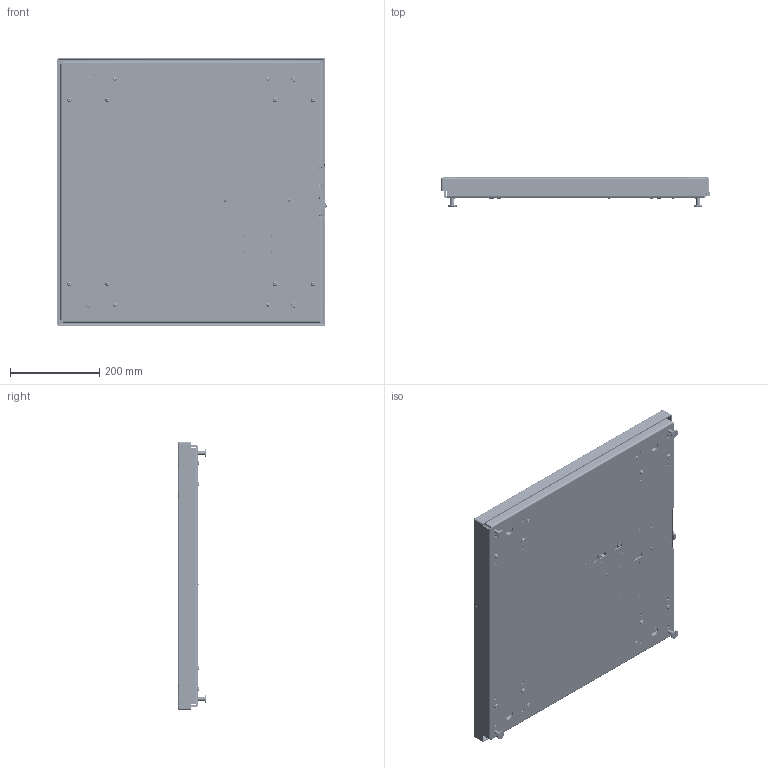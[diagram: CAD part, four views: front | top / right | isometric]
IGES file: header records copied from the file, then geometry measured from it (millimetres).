
Start section: SolidWorks IGES file using analytic representation for surfaces
Global section: file name: C:\0_Work\SolidWorks\~0_E-Scales\24x24\E-SCALE-6500PB-2424-130.IGS; native system: SolidWorks 2017; preprocessor: SolidWorks 2017; author: vach01; date: 190827.160617; units: millimetre
Bounding box: 603.77 x 64.1 x 600 mm (x, y, z)
Surface area: 1931918.6 mm2 (no closed solid volume)
Topology: 0 solids, 0 shells, 24773 faces, 195399 edges, 195264 vertices
Faces by surface type: bspline 20069, revolution 4704
